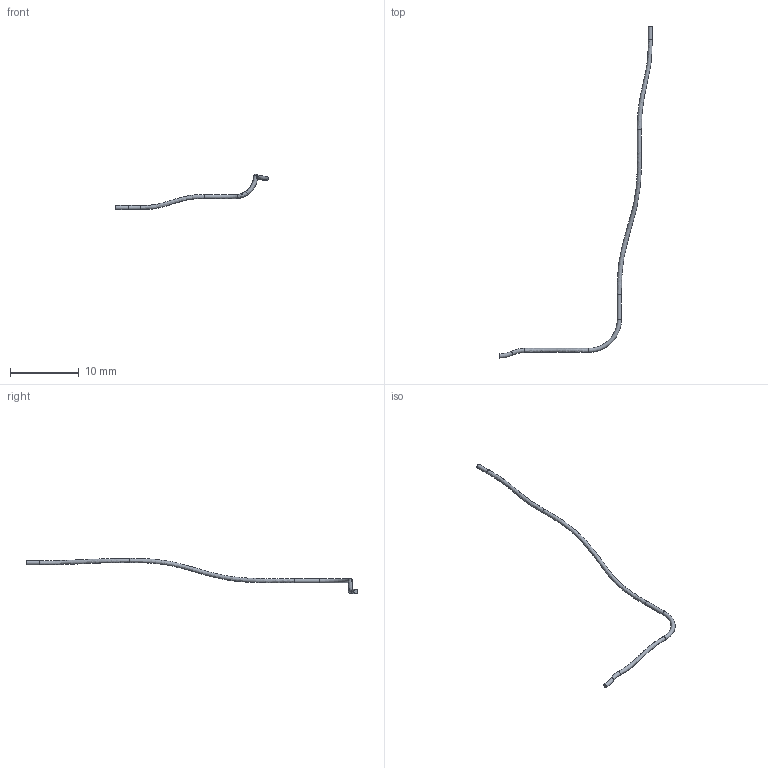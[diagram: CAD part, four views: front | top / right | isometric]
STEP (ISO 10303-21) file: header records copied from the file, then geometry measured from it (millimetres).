
FILE_DESCRIPTION(('FreeCAD Model'),'2;1');
FILE_NAME('Open CASCADE Shape Model','2026-11-12T12:42:20',('FreeCAD'),( 'FreeCAD'),'Open CASCADE STEP processor 7.8','FreeCAD','Unknown');
FILE_SCHEMA(('AUTOMOTIVE_DESIGN { 1 0 10303 214 1 1 1 1 }'));
Length unit declared in the file: millimetre
Products named in the file (1): Open CASCADE STEP translator 7.8 10
Bounding box: 22.23 x 48.34 x 5.1 mm (x, y, z)
Volume: 18 mm3; surface area: 120.8 mm2
Topology: 1 solids, 1 shells, 10 faces, 17 edges, 9 vertices
Faces by surface type: bspline 3, torus 3, cylinder 2, plane 2
Full cylindrical faces by diameter (mm): 0.6 x2
Entity records: 2772 total; most frequent: CARTESIAN_POINT 2592, DIRECTION 36, ORIENTED_EDGE 34, AXIS2_PLACEMENT_3D 17, EDGE_CURVE 17, ADVANCED_FACE 10, FACE_BOUND 10, EDGE_LOOP 10
